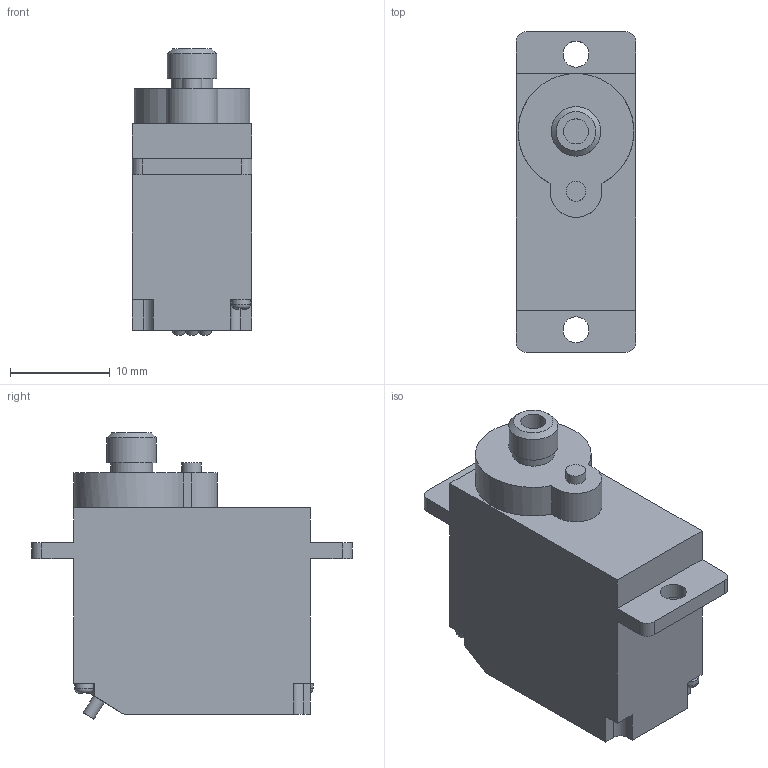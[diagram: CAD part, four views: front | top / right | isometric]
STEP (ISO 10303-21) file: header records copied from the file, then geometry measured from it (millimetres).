
FILE_DESCRIPTION(/* description */ ('STEP AP242 Edition 2','CAx-IF Rec.Pracs.---Representation and Presentation of Product Manufacturing Information (PMI)---4.0---2014-10-13','CAx-IF Rec.Pracs.---3D Tessellated Geometry---0.4---2014-09-14','2;1','CAx-IF Rec.Pracs.---User Defined Attributes---1.5---2016-08-15'),/* implementation_level */ '2;1');
FILE_NAME(/* name */ '695afe6fd13f1a02338892c2',/* time_stamp */ '2026-01-04T23:57:35Z',/* author */ (''),/* organization */ (''),/* preprocessor_version */ 'ST-DEVELOPER v20',/* originating_system */ 'ONSHAPE BY PTC INC, 1.208',/* authorisation */ ' ');
FILE_SCHEMA (('AP242_MANAGED_MODEL_BASED_3D_ENGINEERING_MIM_LF { 1 0 10303 442 3 1 4 }'));
Length unit declared in the file: metre
Products named in the file (1): Solid
Bounding box: 12 x 32.1 x 28.68 mm (x, y, z)
Volume: 6388.4 mm3; surface area: 2519.7 mm2
Topology: 1 solids, 1 shells, 98 faces, 258 edges, 170 vertices
Faces by surface type: plane 74, cylinder 21, torus 2, cone 1
Full cylindrical faces by diameter (mm): 1.26 x3, 1.85 x2, 2 x1, 2.5 x1, 2.6 x2, 4.2 x1, 4.95 x1
Entity records: 3266 total; most frequent: CARTESIAN_POINT 575, ORIENTED_EDGE 478, DIRECTION 466, EDGE_CURVE 239, VERTEX_POINT 165, LINE 162, VECTOR 162, AXIS2_PLACEMENT_3D 152
